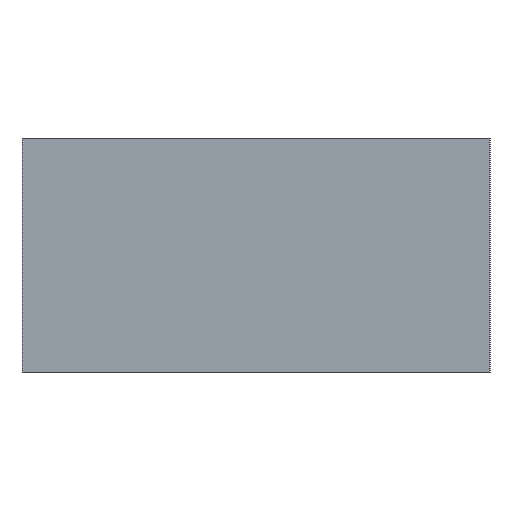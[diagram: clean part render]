
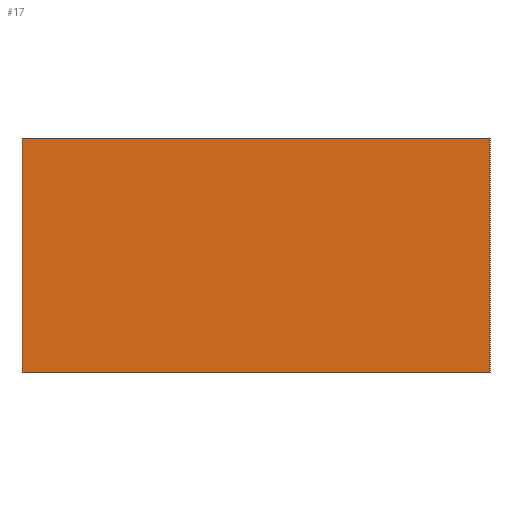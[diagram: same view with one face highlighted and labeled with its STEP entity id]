
A CAD part, left-side view. The second image highlights one B-rep face of the part: STEP entity #17.
In plain terms, the highlighted planar face has unit normal (-1, 0, 0).
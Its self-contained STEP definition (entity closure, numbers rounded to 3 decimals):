
#17 = ADVANCED_FACE('',(#18),#52,.F.);
#18 = FACE_BOUND('',#19,.F.);
#19 = EDGE_LOOP('',(#20,#30,#38,#46));
#20 = ORIENTED_EDGE('',*,*,#21,.F.);
#21 = EDGE_CURVE('',#22,#24,#26,.T.);
#22 = VERTEX_POINT('',#23);
#23 = CARTESIAN_POINT('',(10.,33.625,11.975));
#24 = VERTEX_POINT('',#25);
#25 = CARTESIAN_POINT('',(10.,33.625,15.975));
#26 = LINE('',#27,#28);
#27 = CARTESIAN_POINT('',(10.,33.625,11.975));
#28 = VECTOR('',#29,1.);
#29 = DIRECTION('',(0.,0.,1.));
#30 = ORIENTED_EDGE('',*,*,#31,.T.);
#31 = EDGE_CURVE('',#22,#32,#34,.T.);
#32 = VERTEX_POINT('',#33);
#33 = CARTESIAN_POINT('',(10.,41.625,11.975));
#34 = LINE('',#35,#36);
#35 = CARTESIAN_POINT('',(10.,33.625,11.975));
#36 = VECTOR('',#37,1.);
#37 = DIRECTION('',(0.,1.,0.));
#38 = ORIENTED_EDGE('',*,*,#39,.T.);
#39 = EDGE_CURVE('',#32,#40,#42,.T.);
#40 = VERTEX_POINT('',#41);
#41 = CARTESIAN_POINT('',(10.,41.625,15.975));
#42 = LINE('',#43,#44);
#43 = CARTESIAN_POINT('',(10.,41.625,11.975));
#44 = VECTOR('',#45,1.);
#45 = DIRECTION('',(0.,0.,1.));
#46 = ORIENTED_EDGE('',*,*,#47,.F.);
#47 = EDGE_CURVE('',#24,#40,#48,.T.);
#48 = LINE('',#49,#50);
#49 = CARTESIAN_POINT('',(10.,33.625,15.975));
#50 = VECTOR('',#51,1.);
#51 = DIRECTION('',(0.,1.,0.));
#52 = PLANE('',#53);
#53 = AXIS2_PLACEMENT_3D('',#54,#55,#56);
#54 = CARTESIAN_POINT('',(10.,33.625,11.975));
#55 = DIRECTION('',(1.,0.,0.));
#56 = DIRECTION('',(0.,0.,1.));
